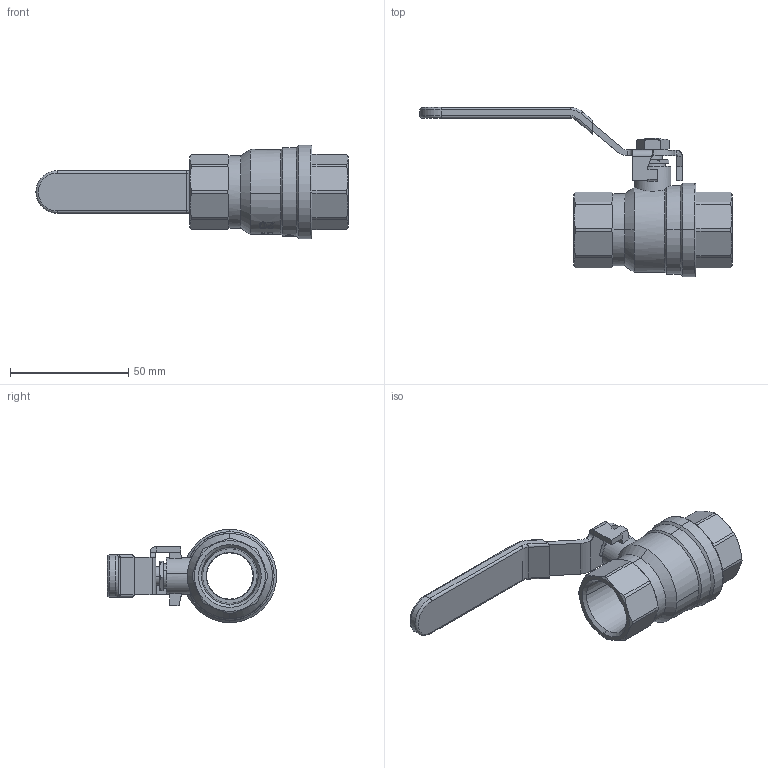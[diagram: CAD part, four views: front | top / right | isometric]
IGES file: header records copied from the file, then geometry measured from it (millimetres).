
Global section: file name: No Iges File Name specified; native system: AutoDesk Inventor R12.0; preprocessor: AutoDesk Inventor Iges Exporter R12.0; date: 20110127.161339; units: millimetre
Bounding box: 132.1 x 71.56 x 39.5 mm (x, y, z)
Volume: 48190.9 mm3; surface area: 32175.7 mm2
Topology: 7 solids, 7 shells, 1705 faces, 4584 edges, 3043 vertices
Faces by surface type: plane 871, bspline 581, cylinder 88, revolution 70, cone 65, torus 26, sphere 4
